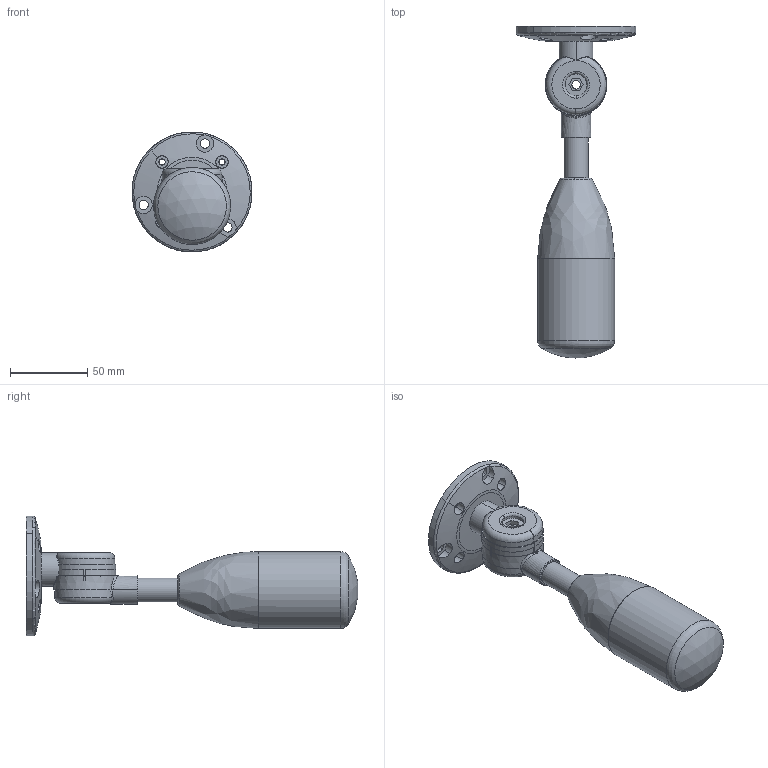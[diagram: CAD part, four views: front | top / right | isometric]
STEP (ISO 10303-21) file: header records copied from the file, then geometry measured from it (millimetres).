
FILE_DESCRIPTION(/* description */ (''),/* implementation_level */ '2;1');
FILE_NAME(/* name */ 'OLC1.stp',/* time_stamp */ '2023-04-21T15:07:53+08:00',/* author */ (''),/* organization */ (''),/* preprocessor_version */ 'ST-DEVELOPER v16.7',/* originating_system */ 'SIEMENS PLM Software NX 12.0',/* authorisation */ '');
FILE_SCHEMA (('AUTOMOTIVE_DESIGN { 1 0 10303 214 3 1 1 1 }'));
Length unit declared in the file: millimetre
Products named in the file (1): Admi0E2CF6ACg1lu
Bounding box: 77.76 x 215.23 x 77.78 mm (x, y, z)
Volume: 182753.7 mm3; surface area: 67750.1 mm2
Topology: 4 solids, 6 shells, 521 faces, 1486 edges, 971 vertices
Faces by surface type: plane 189, bspline 111, cylinder 99, cone 97, torus 19, sphere 6
Full cylindrical faces by diameter (mm): 12 x1, 15.6 x1, 15.7 x3, 50 x1
Entity records: 22361 total; most frequent: CARTESIAN_POINT 11085, ORIENTED_EDGE 2859, DIRECTION 1543, EDGE_CURVE 1469, VERTEX_POINT 966, B_SPLINE_CURVE_WITH_KNOTS 950, AXIS2_PLACEMENT_3D 693, EDGE_LOOP 591
